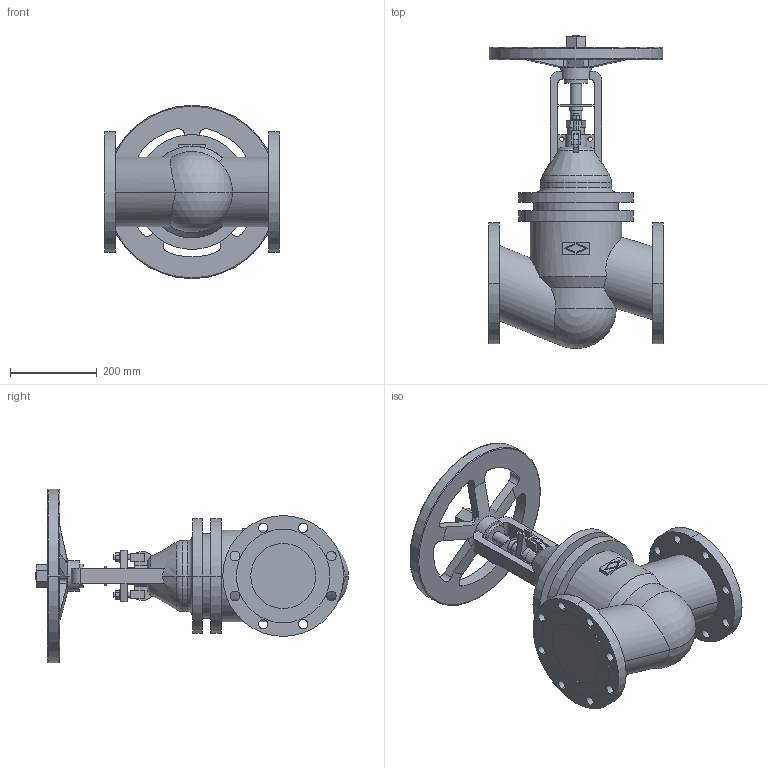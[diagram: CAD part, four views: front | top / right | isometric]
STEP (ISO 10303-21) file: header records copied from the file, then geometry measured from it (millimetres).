
FILE_DESCRIPTION(('OneSpaceDesigner STEP Export'),'2;1');
FILE_NAME('c000004210.stp','2010-04-30T 8:20:22',(''),(''),'OneSpace Designer STEP processor for AP214 (Solid Model)','OneSpace Modeling 15.50B 03-Nov-2007 (C) CoCreate Software GmbH','');
FILE_SCHEMA(('AUTOMOTIVE_DESIGN { 1 0 10303 214 1 1 1 1 }'));
Length unit declared in the file: millimetre
Products named in the file (1): 1
Bounding box: 406 x 722.53 x 400 mm (x, y, z)
Volume: 22614871.6 mm3; surface area: 1054904.7 mm2
Topology: 1 solids, 1 shells, 313 faces, 864 edges, 571 vertices
Faces by surface type: plane 146, cylinder 136, torus 19, cone 10, sphere 2
Entity records: 12582 total; most frequent: CARTESIAN_POINT 2521, ORIENTED_EDGE 1724, DIRECTION 1386, EDGE_CURVE 862, VERTEX_POINT 571, AXIS2_PLACEMENT_3D 480, VECTOR 426, LINE 426
